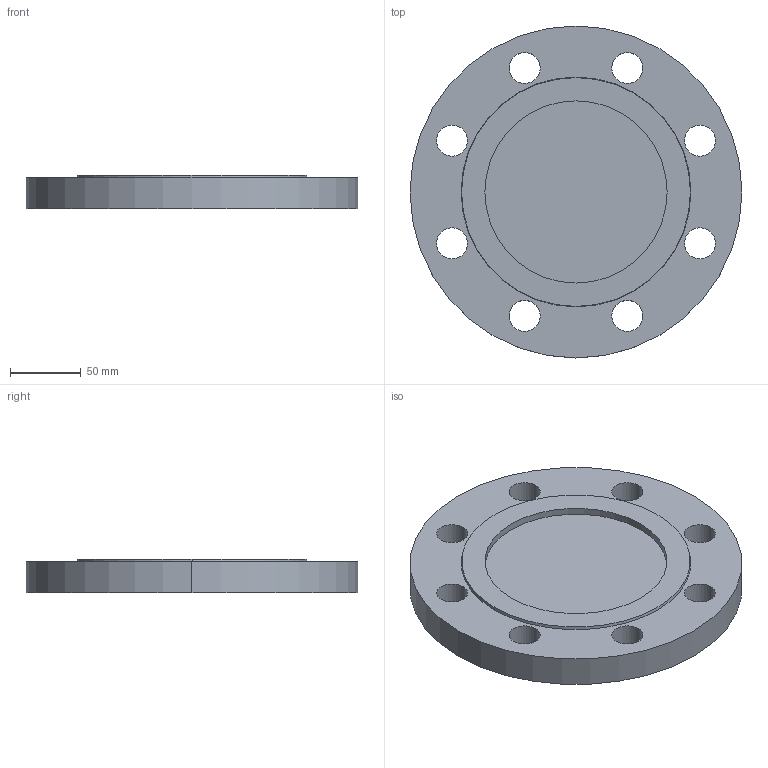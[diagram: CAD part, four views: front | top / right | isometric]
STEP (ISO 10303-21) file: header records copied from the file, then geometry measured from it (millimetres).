
FILE_DESCRIPTION (( 'STEP AP214' ), '1' );
FILE_NAME ('PN40 DN100 Type 05 - Type G Face.STEP', '2019-01-02T00:24:55', ( '' ), ( '' ), 'SwSTEP 2.0', 'SolidWorks 2019', '' );
FILE_SCHEMA (( 'AUTOMOTIVE_DESIGN' ));
Length unit declared in the file: millimetre
Products named in the file (1): PN40 DN100 Type 05 - Type G Face
Bounding box: 235 x 235 x 24 mm (x, y, z)
Volume: 863370.8 mm3; surface area: 111953.7 mm2
Topology: 1 solids, 1 shells, 26 faces, 66 edges, 44 vertices
Faces by surface type: cylinder 20, plane 4, cone 2
Entity records: 880 total; most frequent: DIRECTION 164, CARTESIAN_POINT 137, ORIENTED_EDGE 132, AXIS2_PLACEMENT_3D 71, EDGE_CURVE 66, CIRCLE 44, EDGE_LOOP 44, VERTEX_POINT 44
